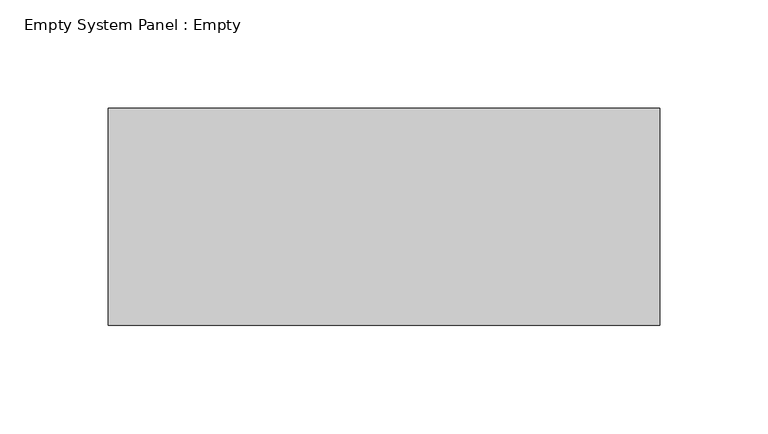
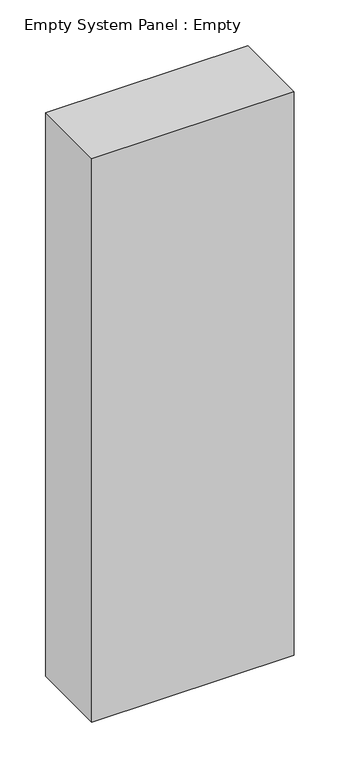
"""IFC4 building model written with IfcOpenShell, lengths in millimetres: plate geometry, Empty System Panel : Empty."""

from ifc_helpers import new_model, si_unit, origin, origin_with_axes, place, context, project, spatial, polyline, outline, extrude, source, transform, mapped, element, save


def empty_system_panel_empty_44f4aa2b(model_context):
    return source(origin(), model_context, "Body", "SweptSolid", [
        extrude(outline(polyline([(127.1, -50.0), (-127.1, -50.0), (-127.1, 50.0), (127.1, 50.0), (127.1, -50.0)])), origin_with_axes(), (0.0, 0.0, 1.0), 748.2),
    ])


if __name__ == "__main__":
    model = new_model("IFC4")
    model_context = context("Model", 3, world=origin())
    ifc_project = project(units=[si_unit("LENGTHUNIT", "METRE", prefix="MILLI")], contexts=[model_context])
    site = spatial("IfcSite", under=ifc_project)
    building = spatial("IfcBuilding", under=site)
    placement = place(None, origin())
    empty_system_panel_empty_shape = empty_system_panel_empty_44f4aa2b(model_context)
    element("IfcPlate", 1, ObjectType="Empty System Panel : Empty", at=placement, inside=building, context=model_context, shape_type="MappedRepresentation", body=[
        mapped(empty_system_panel_empty_shape, transform((0.0, 0.0, 0.0), x_axis=(1.0, 0.0, 0.0), y_axis=(0.0, 1.0, 0.0), z_axis=(0.0, 0.0, 1.0))),
    ])
    save(model, "model.ifc")
